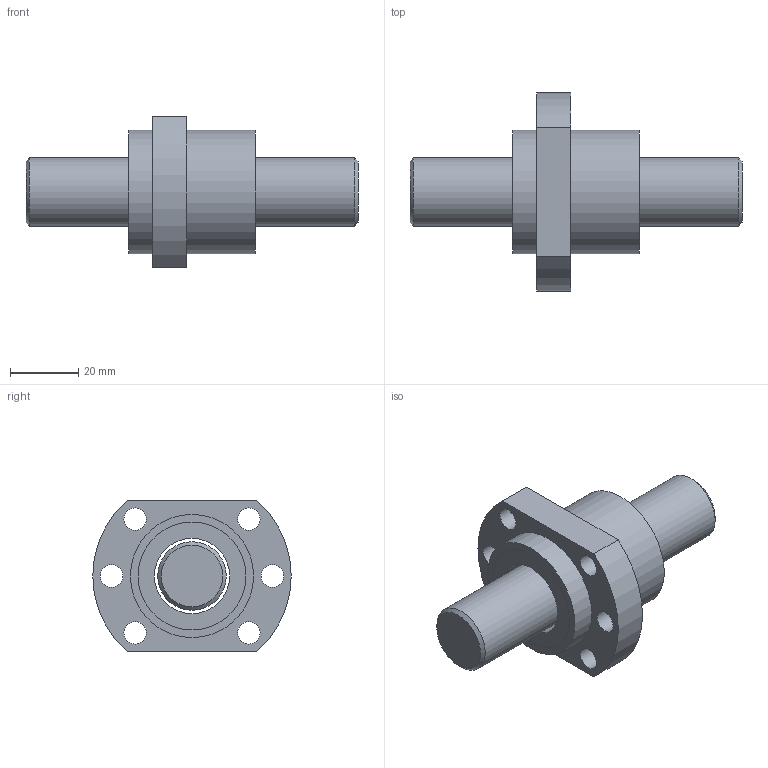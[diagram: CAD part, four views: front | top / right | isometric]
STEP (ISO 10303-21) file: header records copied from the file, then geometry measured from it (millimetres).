
FILE_DESCRIPTION(/* description */ (''),/* implementation_level */ '2;1');
FILE_NAME(/* name */ 'SFH2005-3.8.stp',/* time_stamp */ '2014-10-15T12:05:30+08:00',/* author */ (''),/* organization */ (''),/* preprocessor_version */ 'ST-DEVELOPER v11',/* originating_system */ 'SIEMENS UGS NX 6.0',/* authorisation */ '');
FILE_SCHEMA (('CONFIG_CONTROL_DESIGN'));
Length unit declared in the file: millimetre
Products named in the file (1): fannB1F9gmc5
Bounding box: 97 x 58 x 44 mm (x, y, z)
Volume: 64576.6 mm3; surface area: 23545.6 mm2
Topology: 4 solids, 4 shells, 50 faces, 90 edges, 60 vertices
Faces by surface type: cylinder 26, plane 22, cone 2
Full cylindrical faces by diameter (mm): 6.6 x6, 20 x1, 22 x3, 28 x4, 31.5 x4, 33 x4, 36 x2
Entity records: 1216 total; most frequent: DIRECTION 218, CARTESIAN_POINT 171, ORIENTED_EDGE 124, EDGE_LOOP 106, AXIS2_PLACEMENT_3D 105, FACE_BOUND 100, EDGE_CURVE 62, VERTEX_POINT 58
